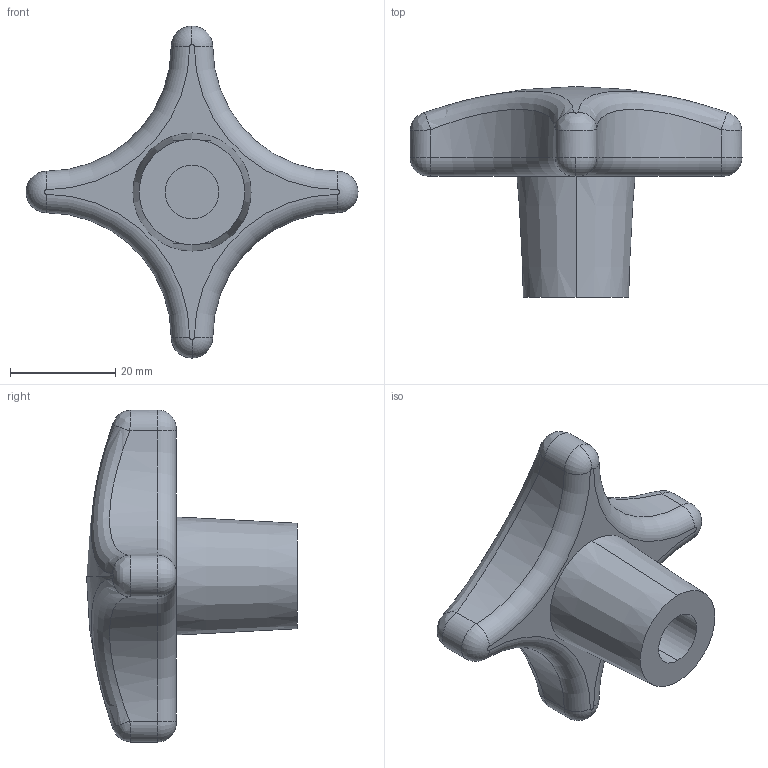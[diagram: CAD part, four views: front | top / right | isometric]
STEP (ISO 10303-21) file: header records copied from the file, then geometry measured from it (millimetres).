
FILE_DESCRIPTION (( 'STEP AP203' ), '1' );
FILE_NAME ('7000.W463.step', '2010-01-29T17:39:03', ( 'Wixroyd' ), ( 'Wixroyd' ), 'SwSTEP 2.0', 'SolidWorks 2009', '' );
FILE_SCHEMA (( 'CONFIG_CONTROL_DESIGN' ));
Length unit declared in the file: millimetre
Products named in the file (1): 7000.W463
Bounding box: 63 x 40 x 63 mm (x, y, z)
Volume: 26299.7 mm3; surface area: 7250.1 mm2
Topology: 1 solids, 1 shells, 36 faces, 80 edges, 48 vertices
Faces by surface type: cylinder 11, torus 10, bspline 8, plane 3, cone 2, sphere 2
Entity records: 6542 total; most frequent: CARTESIAN_POINT 5688, DIRECTION 167, ORIENTED_EDGE 160, EDGE_CURVE 80, AXIS2_PLACEMENT_3D 77, CIRCLE 48, VERTEX_POINT 48, EDGE_LOOP 38
